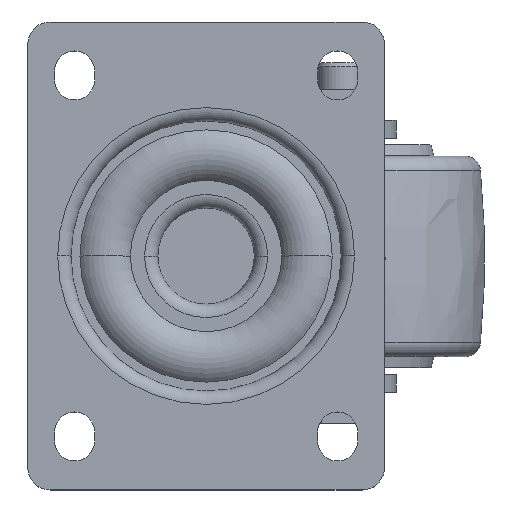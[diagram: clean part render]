
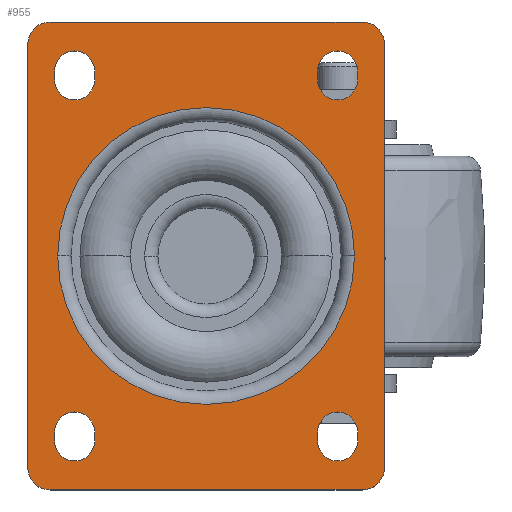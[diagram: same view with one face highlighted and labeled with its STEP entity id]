
A CAD part, top view. The second image highlights one B-rep face of the part: STEP entity #955.
In plain terms, the highlighted planar face has unit normal (0, 0, 1).
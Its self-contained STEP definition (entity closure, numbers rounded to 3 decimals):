
#955=ADVANCED_FACE('',(#1608,#1609,#1610,#1611,#1612,#1613),#1385,.F.);
#1385=PLANE('',#7644);
#1608=FACE_BOUND('',#1688,.T.);
#1609=FACE_BOUND('',#1689,.T.);
#1610=FACE_BOUND('',#1690,.T.);
#1611=FACE_BOUND('',#1691,.T.);
#1612=FACE_BOUND('',#1692,.T.);
#1613=FACE_BOUND('',#1693,.T.);
#1688=EDGE_LOOP('',(#2530,#2531,#2532,#2533));
#1689=EDGE_LOOP('',(#2534,#2535,#2536,#2537,#2538,#2539,#2540,#2541));
#1690=EDGE_LOOP('',(#2542,#2543));
#1691=EDGE_LOOP('',(#2544,#2545,#2546,#2547));
#1692=EDGE_LOOP('',(#2548,#2549,#2550,#2551));
#1693=EDGE_LOOP('',(#2552,#2553,#2554,#2555));
#2175=CIRCLE('',#7630,4.5);
#2176=CIRCLE('',#7631,4.5);
#2177=CIRCLE('',#7632,5.);
#2178=CIRCLE('',#7633,5.);
#2179=CIRCLE('',#7634,5.);
#2180=CIRCLE('',#7635,5.);
#2181=CIRCLE('',#7636,33.296);
#2182=CIRCLE('',#7637,33.296);
#2183=CIRCLE('',#7638,4.5);
#2184=CIRCLE('',#7639,4.5);
#2185=CIRCLE('',#7640,4.5);
#2186=CIRCLE('',#7641,4.5);
#2187=CIRCLE('',#7642,4.5);
#2188=CIRCLE('',#7643,4.5);
#2530=ORIENTED_EDGE('',*,*,#5536,.F.);
#2531=ORIENTED_EDGE('',*,*,#5537,.F.);
#2532=ORIENTED_EDGE('',*,*,#5538,.F.);
#2533=ORIENTED_EDGE('',*,*,#5539,.F.);
#2534=ORIENTED_EDGE('',*,*,#5540,.F.);
#2535=ORIENTED_EDGE('',*,*,#5541,.T.);
#2536=ORIENTED_EDGE('',*,*,#5542,.F.);
#2537=ORIENTED_EDGE('',*,*,#5543,.T.);
#2538=ORIENTED_EDGE('',*,*,#5544,.F.);
#2539=ORIENTED_EDGE('',*,*,#5545,.T.);
#2540=ORIENTED_EDGE('',*,*,#5546,.F.);
#2541=ORIENTED_EDGE('',*,*,#5547,.T.);
#2542=ORIENTED_EDGE('',*,*,#5548,.F.);
#2543=ORIENTED_EDGE('',*,*,#5549,.T.);
#2544=ORIENTED_EDGE('',*,*,#5550,.T.);
#2545=ORIENTED_EDGE('',*,*,#5551,.T.);
#2546=ORIENTED_EDGE('',*,*,#5552,.T.);
#2547=ORIENTED_EDGE('',*,*,#5553,.T.);
#2548=ORIENTED_EDGE('',*,*,#5554,.T.);
#2549=ORIENTED_EDGE('',*,*,#5555,.T.);
#2550=ORIENTED_EDGE('',*,*,#5556,.T.);
#2551=ORIENTED_EDGE('',*,*,#5557,.T.);
#2552=ORIENTED_EDGE('',*,*,#5558,.F.);
#2553=ORIENTED_EDGE('',*,*,#5559,.F.);
#2554=ORIENTED_EDGE('',*,*,#5560,.F.);
#2555=ORIENTED_EDGE('',*,*,#5561,.F.);
#4794=VERTEX_POINT('',#10953);
#4795=VERTEX_POINT('',#10954);
#4796=VERTEX_POINT('',#10956);
#4797=VERTEX_POINT('',#10958);
#4798=VERTEX_POINT('',#10961);
#4799=VERTEX_POINT('',#10962);
#4800=VERTEX_POINT('',#10964);
#4801=VERTEX_POINT('',#10966);
#4802=VERTEX_POINT('',#10968);
#4803=VERTEX_POINT('',#10970);
#4804=VERTEX_POINT('',#10972);
#4805=VERTEX_POINT('',#10974);
#4806=VERTEX_POINT('',#10977);
#4807=VERTEX_POINT('',#10978);
#4808=VERTEX_POINT('',#10981);
#4809=VERTEX_POINT('',#10982);
#4810=VERTEX_POINT('',#10984);
#4811=VERTEX_POINT('',#10986);
#4812=VERTEX_POINT('',#10989);
#4813=VERTEX_POINT('',#10990);
#4814=VERTEX_POINT('',#10992);
#4815=VERTEX_POINT('',#10994);
#4816=VERTEX_POINT('',#10997);
#4817=VERTEX_POINT('',#10998);
#4818=VERTEX_POINT('',#11000);
#4819=VERTEX_POINT('',#11002);
#5536=EDGE_CURVE('',#4794,#4795,#6659,.T.);
#5537=EDGE_CURVE('',#4796,#4794,#2175,.T.);
#5538=EDGE_CURVE('',#4797,#4796,#6660,.T.);
#5539=EDGE_CURVE('',#4795,#4797,#2176,.T.);
#5540=EDGE_CURVE('',#4798,#4799,#6661,.T.);
#5541=EDGE_CURVE('',#4798,#4800,#2177,.T.);
#5542=EDGE_CURVE('',#4801,#4800,#6662,.T.);
#5543=EDGE_CURVE('',#4801,#4802,#2178,.T.);
#5544=EDGE_CURVE('',#4803,#4802,#6663,.T.);
#5545=EDGE_CURVE('',#4803,#4804,#2179,.T.);
#5546=EDGE_CURVE('',#4805,#4804,#6664,.T.);
#5547=EDGE_CURVE('',#4805,#4799,#2180,.T.);
#5548=EDGE_CURVE('',#4806,#4807,#2181,.T.);
#5549=EDGE_CURVE('',#4806,#4807,#2182,.T.);
#5550=EDGE_CURVE('',#4808,#4809,#2183,.T.);
#5551=EDGE_CURVE('',#4809,#4810,#6665,.T.);
#5552=EDGE_CURVE('',#4810,#4811,#2184,.T.);
#5553=EDGE_CURVE('',#4811,#4808,#6666,.T.);
#5554=EDGE_CURVE('',#4812,#4813,#2185,.T.);
#5555=EDGE_CURVE('',#4813,#4814,#6667,.T.);
#5556=EDGE_CURVE('',#4814,#4815,#2186,.T.);
#5557=EDGE_CURVE('',#4815,#4812,#6668,.T.);
#5558=EDGE_CURVE('',#4816,#4817,#6669,.T.);
#5559=EDGE_CURVE('',#4818,#4816,#2187,.T.);
#5560=EDGE_CURVE('',#4819,#4818,#6670,.T.);
#5561=EDGE_CURVE('',#4817,#4819,#2188,.T.);
#6659=LINE('',#10952,#7144);
#6660=LINE('',#10957,#7145);
#6661=LINE('',#10960,#7146);
#6662=LINE('',#10965,#7147);
#6663=LINE('',#10969,#7148);
#6664=LINE('',#10973,#7149);
#6665=LINE('',#10983,#7150);
#6666=LINE('',#10987,#7151);
#6667=LINE('',#10991,#7152);
#6668=LINE('',#10995,#7153);
#6669=LINE('',#10996,#7154);
#6670=LINE('',#11001,#7155);
#7144=VECTOR('',#8587,1.);
#7145=VECTOR('',#8590,1.);
#7146=VECTOR('',#8593,1.);
#7147=VECTOR('',#8596,1.);
#7148=VECTOR('',#8599,1.);
#7149=VECTOR('',#8602,1.);
#7150=VECTOR('',#8611,1.);
#7151=VECTOR('',#8614,1.);
#7152=VECTOR('',#8617,1.);
#7153=VECTOR('',#8620,1.);
#7154=VECTOR('',#8621,1.);
#7155=VECTOR('',#8624,1.);
#7630=AXIS2_PLACEMENT_3D('',#10955,#8588,#8589);
#7631=AXIS2_PLACEMENT_3D('',#10959,#8591,#8592);
#7632=AXIS2_PLACEMENT_3D('',#10963,#8594,#8595);
#7633=AXIS2_PLACEMENT_3D('',#10967,#8597,#8598);
#7634=AXIS2_PLACEMENT_3D('',#10971,#8600,#8601);
#7635=AXIS2_PLACEMENT_3D('',#10975,#8603,#8604);
#7636=AXIS2_PLACEMENT_3D('',#10976,#8605,#8606);
#7637=AXIS2_PLACEMENT_3D('',#10979,#8607,#8608);
#7638=AXIS2_PLACEMENT_3D('',#10980,#8609,#8610);
#7639=AXIS2_PLACEMENT_3D('',#10985,#8612,#8613);
#7640=AXIS2_PLACEMENT_3D('',#10988,#8615,#8616);
#7641=AXIS2_PLACEMENT_3D('',#10993,#8618,#8619);
#7642=AXIS2_PLACEMENT_3D('',#10999,#8622,#8623);
#7643=AXIS2_PLACEMENT_3D('',#11003,#8625,#8626);
#7644=AXIS2_PLACEMENT_3D('',#11004,#8627,#8628);
#8587=DIRECTION('',(0.,-1.,0.));
#8588=DIRECTION('',(0.,0.,1.));
#8589=DIRECTION('',(1.,0.,0.));
#8590=DIRECTION('',(0.,1.,0.));
#8591=DIRECTION('',(0.,0.,1.));
#8592=DIRECTION('',(1.,0.,0.));
#8593=DIRECTION('',(0.,-1.,0.));
#8594=DIRECTION('',(0.,0.,1.));
#8595=DIRECTION('',(1.,0.,0.));
#8596=DIRECTION('',(1.,0.,0.));
#8597=DIRECTION('',(0.,0.,1.));
#8598=DIRECTION('',(0.,1.,0.));
#8599=DIRECTION('',(0.,1.,0.));
#8600=DIRECTION('',(0.,0.,1.));
#8601=DIRECTION('',(-1.,0.,0.));
#8602=DIRECTION('',(-1.,0.,0.));
#8603=DIRECTION('',(0.,0.,1.));
#8604=DIRECTION('',(0.,-1.,0.));
#8605=DIRECTION('',(0.,0.,1.));
#8606=DIRECTION('',(-1.,0.,0.));
#8607=DIRECTION('',(0.,0.,-1.));
#8608=DIRECTION('',(-1.,0.,0.));
#8609=DIRECTION('',(0.,0.,-1.));
#8610=DIRECTION('',(1.,0.,0.));
#8611=DIRECTION('',(0.,1.,0.));
#8612=DIRECTION('',(0.,0.,-1.));
#8613=DIRECTION('',(1.,0.,0.));
#8614=DIRECTION('',(0.,-1.,0.));
#8615=DIRECTION('',(0.,0.,-1.));
#8616=DIRECTION('',(-1.,0.,0.));
#8617=DIRECTION('',(0.,1.,0.));
#8618=DIRECTION('',(0.,0.,-1.));
#8619=DIRECTION('',(-1.,0.,0.));
#8620=DIRECTION('',(0.,-1.,0.));
#8621=DIRECTION('',(0.,-1.,0.));
#8622=DIRECTION('',(0.,0.,1.));
#8623=DIRECTION('',(-1.,0.,0.));
#8624=DIRECTION('',(0.,1.,0.));
#8625=DIRECTION('',(0.,0.,1.));
#8626=DIRECTION('',(-1.,0.,0.));
#8627=DIRECTION('',(0.,0.,-1.));
#8628=DIRECTION('',(-1.,0.,0.));
#10952=CARTESIAN_POINT('',(-34.,41.5,0.));
#10953=CARTESIAN_POINT('',(-34.,41.5,0.));
#10954=CARTESIAN_POINT('',(-34.,39.5,0.));
#10955=CARTESIAN_POINT('',(-29.5,41.5,0.));
#10956=CARTESIAN_POINT('',(-25.,41.5,0.));
#10957=CARTESIAN_POINT('',(-25.,39.5,0.));
#10958=CARTESIAN_POINT('',(-25.,39.5,0.));
#10959=CARTESIAN_POINT('',(-29.5,39.5,0.));
#10960=CARTESIAN_POINT('',(40.,47.5,0.));
#10961=CARTESIAN_POINT('',(40.,47.5,0.));
#10962=CARTESIAN_POINT('',(40.,-47.5,0.));
#10963=CARTESIAN_POINT('',(35.,47.5,0.));
#10964=CARTESIAN_POINT('',(35.,52.5,0.));
#10965=CARTESIAN_POINT('',(-35.,52.5,0.));
#10966=CARTESIAN_POINT('',(-35.,52.5,0.));
#10967=CARTESIAN_POINT('',(-35.,47.5,0.));
#10968=CARTESIAN_POINT('',(-40.,47.5,0.));
#10969=CARTESIAN_POINT('',(-40.,-47.5,0.));
#10970=CARTESIAN_POINT('',(-40.,-47.5,0.));
#10971=CARTESIAN_POINT('',(-35.,-47.5,0.));
#10972=CARTESIAN_POINT('',(-35.,-52.5,0.));
#10973=CARTESIAN_POINT('',(35.,-52.5,0.));
#10974=CARTESIAN_POINT('',(35.,-52.5,0.));
#10975=CARTESIAN_POINT('',(35.,-47.5,0.));
#10976=CARTESIAN_POINT('',(0.,0.,0.));
#10977=CARTESIAN_POINT('',(-33.296,0.,0.));
#10978=CARTESIAN_POINT('',(33.296,0.,0.));
#10979=CARTESIAN_POINT('',(0.,0.,0.));
#10980=CARTESIAN_POINT('',(-29.5,-41.5,0.));
#10981=CARTESIAN_POINT('',(-25.,-41.5,0.));
#10982=CARTESIAN_POINT('',(-34.,-41.5,0.));
#10983=CARTESIAN_POINT('',(-34.,-41.5,0.));
#10984=CARTESIAN_POINT('',(-34.,-39.5,0.));
#10985=CARTESIAN_POINT('',(-29.5,-39.5,0.));
#10986=CARTESIAN_POINT('',(-25.,-39.5,0.));
#10987=CARTESIAN_POINT('',(-25.,-39.5,0.));
#10988=CARTESIAN_POINT('',(29.5,-41.5,0.));
#10989=CARTESIAN_POINT('',(34.,-41.5,0.));
#10990=CARTESIAN_POINT('',(25.,-41.5,0.));
#10991=CARTESIAN_POINT('',(25.,-41.5,0.));
#10992=CARTESIAN_POINT('',(25.,-39.5,0.));
#10993=CARTESIAN_POINT('',(29.5,-39.5,0.));
#10994=CARTESIAN_POINT('',(34.,-39.5,0.));
#10995=CARTESIAN_POINT('',(34.,-39.5,0.));
#10996=CARTESIAN_POINT('',(25.,41.5,0.));
#10997=CARTESIAN_POINT('',(25.,41.5,0.));
#10998=CARTESIAN_POINT('',(25.,39.5,0.));
#10999=CARTESIAN_POINT('',(29.5,41.5,0.));
#11000=CARTESIAN_POINT('',(34.,41.5,0.));
#11001=CARTESIAN_POINT('',(34.,39.5,0.));
#11002=CARTESIAN_POINT('',(34.,39.5,0.));
#11003=CARTESIAN_POINT('',(29.5,39.5,0.));
#11004=CARTESIAN_POINT('',(0.,0.,0.));
